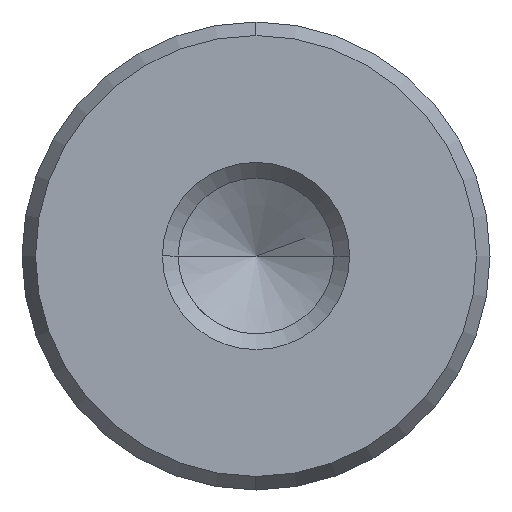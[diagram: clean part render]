
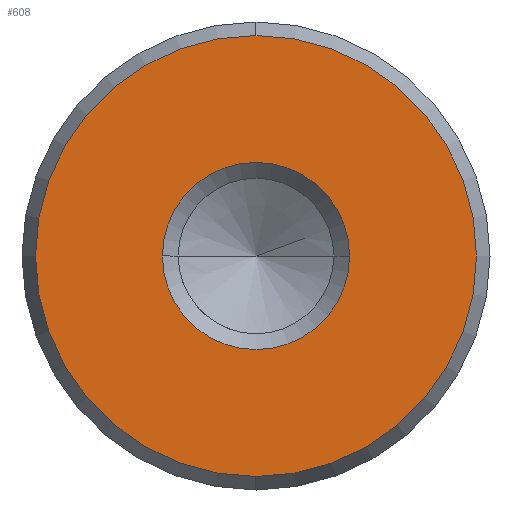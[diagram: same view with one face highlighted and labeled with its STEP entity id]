
A CAD part, left-side view. The second image highlights one B-rep face of the part: STEP entity #608.
In plain terms, the highlighted planar face has unit normal (-1, 0, 0).
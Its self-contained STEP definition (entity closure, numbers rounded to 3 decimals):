
#522=CARTESIAN_POINT('Vertex',(0.,0.,-9.423)) ;
#525=CARTESIAN_POINT('Axis2P3D Location',(0.,0.,0.)) ;
#529=CARTESIAN_POINT('Vertex',(0.,9.423,0.)) ;
#532=CARTESIAN_POINT('Axis2P3D Location',(0.,0.,0.)) ;
#536=CARTESIAN_POINT('Vertex',(0.,0.,9.423)) ;
#558=CARTESIAN_POINT('Axis2P3D Location',(0.,0.,0.)) ;
#562=CARTESIAN_POINT('Vertex',(0.,-9.423,0.)) ;
#565=CARTESIAN_POINT('Axis2P3D Location',(0.,0.,0.)) ;
#579=CARTESIAN_POINT('Axis2P3D Location',(0.,0.,0.)) ;
#590=CARTESIAN_POINT('Axis2P3D Location',(0.,0.,0.)) ;
#594=CARTESIAN_POINT('Vertex',(0.,4.,0.)) ;
#596=CARTESIAN_POINT('Vertex',(0.,-4.,0.)) ;
#599=CARTESIAN_POINT('Axis2P3D Location',(0.,0.,0.)) ;
#526=DIRECTION('Axis2P3D Direction',(1.,0.,-0.)) ;
#533=DIRECTION('Axis2P3D Direction',(1.,0.,-0.)) ;
#559=DIRECTION('Axis2P3D Direction',(1.,0.,-0.)) ;
#566=DIRECTION('Axis2P3D Direction',(1.,0.,-0.)) ;
#580=DIRECTION('Axis2P3D Direction',(1.,0.,-0.)) ;
#581=DIRECTION('Axis2P3D XDirection',(-0.,0.,-1.)) ;
#591=DIRECTION('Axis2P3D Direction',(1.,0.,-0.)) ;
#600=DIRECTION('Axis2P3D Direction',(1.,0.,-0.)) ;
#527=AXIS2_PLACEMENT_3D('Circle Axis2P3D',#525,#526,$) ;
#534=AXIS2_PLACEMENT_3D('Circle Axis2P3D',#532,#533,$) ;
#560=AXIS2_PLACEMENT_3D('Circle Axis2P3D',#558,#559,$) ;
#567=AXIS2_PLACEMENT_3D('Circle Axis2P3D',#565,#566,$) ;
#582=AXIS2_PLACEMENT_3D('Plane Axis2P3D',#579,#580,#581) ;
#592=AXIS2_PLACEMENT_3D('Circle Axis2P3D',#590,#591,$) ;
#601=AXIS2_PLACEMENT_3D('Circle Axis2P3D',#599,#600,$) ;
#585=ORIENTED_EDGE('',*,*,#531,.F.) ;
#586=ORIENTED_EDGE('',*,*,#569,.F.) ;
#587=ORIENTED_EDGE('',*,*,#564,.F.) ;
#588=ORIENTED_EDGE('',*,*,#538,.F.) ;
#605=ORIENTED_EDGE('',*,*,#598,.T.) ;
#606=ORIENTED_EDGE('',*,*,#603,.T.) ;
#607=FACE_BOUND('',#604,.T.) ;
#608=ADVANCED_FACE('720-20x224',(#589,#607),#583,.F.) ;
#528=CIRCLE('generated circle',#527,9.423) ;
#535=CIRCLE('generated circle',#534,9.423) ;
#561=CIRCLE('generated circle',#560,9.423) ;
#568=CIRCLE('generated circle',#567,9.423) ;
#593=CIRCLE('generated circle',#592,4.) ;
#602=CIRCLE('generated circle',#601,4.) ;
#531=EDGE_CURVE('',#523,#530,#528,.T.) ;
#538=EDGE_CURVE('',#530,#537,#535,.T.) ;
#564=EDGE_CURVE('',#537,#563,#561,.T.) ;
#569=EDGE_CURVE('',#563,#523,#568,.T.) ;
#598=EDGE_CURVE('',#595,#597,#593,.T.) ;
#603=EDGE_CURVE('',#597,#595,#602,.T.) ;
#584=EDGE_LOOP('',(#585,#586,#587,#588)) ;
#604=EDGE_LOOP('',(#605,#606)) ;
#589=FACE_OUTER_BOUND('',#584,.T.) ;
#583=PLANE('Plane',#582) ;
#523=VERTEX_POINT('',#522) ;
#530=VERTEX_POINT('',#529) ;
#537=VERTEX_POINT('',#536) ;
#563=VERTEX_POINT('',#562) ;
#595=VERTEX_POINT('',#594) ;
#597=VERTEX_POINT('',#596) ;
